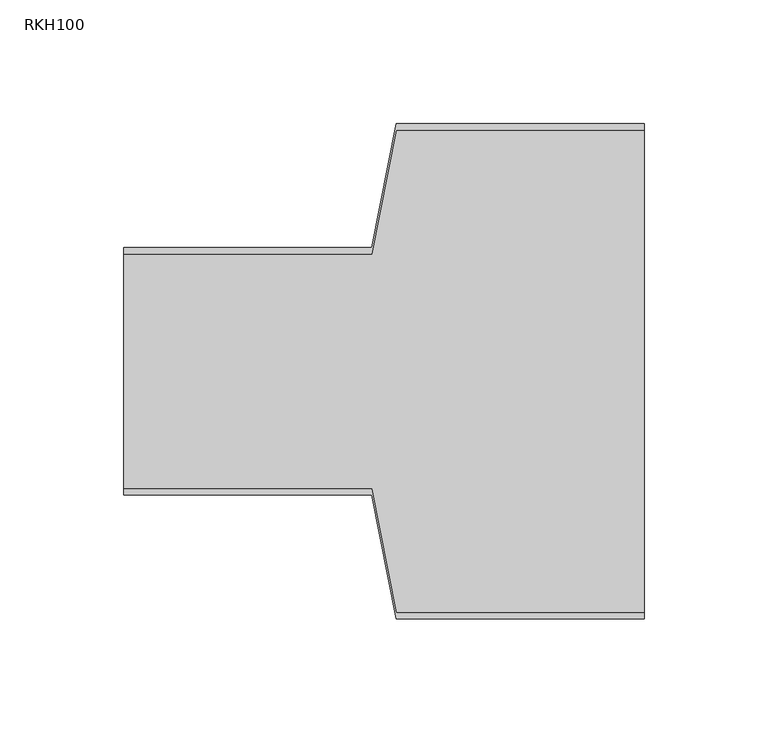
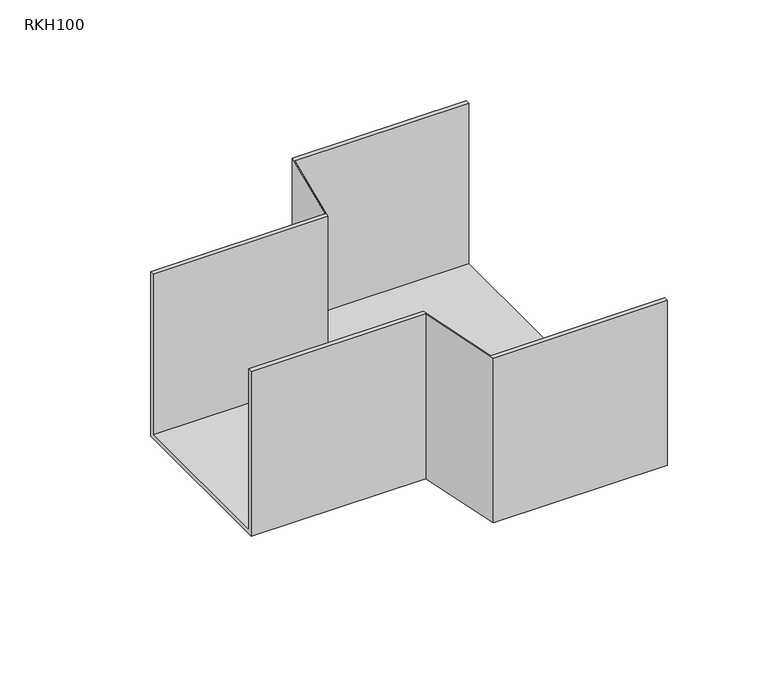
"""IFC4 building model written with IfcOpenShell, lengths in millimetres: cable carrier fitting geometry, BAKS_Reduction-angular_RK : RKH100."""

from ifc_helpers import new_model, si_unit, origin, place, context, project, spatial, faceted_brep, source, transform, mapped, element, save


def rkh100_78735ad3(model_context):
    return source(origin(), model_context, "Body", "Brep", [
        faceted_brep([(0.0, -50.0, -50.0), (0.0, -50.0, 50.0), (0.0, -47.46, 50.0), (0.0, -47.46, -47.46), (0.0, 47.46, -47.46), (0.0, 47.46, 50.0), (0.0, 50.0, 50.0), (0.0, 50.0, -50.0), (210.0, -100.0, -50.0), (210.0, 100.0, -50.0), (210.0, 100.0, 50.0), (210.0, 97.46, 50.0), (210.0, 97.46, -47.46), (210.0, -97.46, -47.46), (210.0, -97.46, 50.0), (210.0, -100.0, 50.0), (100.0, -50.0, -50.0), (100.0, -50.0, 50.0), (110.0, -100.0, 50.0), (110.0, -97.46, 50.0), (100.0, -47.46, 50.0), (100.0, -47.46, -47.46), (110.0, -97.46, -47.46), (110.0, 97.46, -47.46), (100.0, 47.46, -47.46), (100.0, 47.46, 50.0), (110.0, 97.46, 50.0), (110.0, 100.0, 50.0), (100.0, 50.0, 50.0), (100.0, 50.0, -50.0), (110.0, 100.0, -50.0), (110.0, -100.0, -50.0)], [[[0, 1, 2, 3, 4, 5, 6, 7]], [[8, 9, 10, 11, 12, 13, 14, 15]], [[1, 0, 16, 17]], [[2, 1, 17, 18, 15, 14, 19, 20]], [[3, 2, 20, 21]], [[4, 3, 21, 22, 13, 12, 23, 24]], [[5, 4, 24, 25]], [[6, 5, 25, 26, 11, 10, 27, 28]], [[7, 6, 28, 29]], [[0, 7, 29, 30, 9, 8, 31, 16]], [[8, 15, 18, 31]], [[14, 13, 22, 19]], [[12, 11, 26, 23]], [[10, 9, 30, 27]], [[30, 29, 28, 27]], [[26, 25, 24, 23]], [[22, 21, 20, 19]], [[16, 31, 18, 17]]]),
    ])


if __name__ == "__main__":
    model = new_model("IFC4")
    model_context = context("Model", 3, world=origin())
    ifc_project = project(units=[si_unit("LENGTHUNIT", "METRE", prefix="MILLI")], contexts=[model_context])
    site = spatial("IfcSite", under=ifc_project)
    building = spatial("IfcBuilding", under=site)
    placement = place(None, origin())
    rkh100_shape = rkh100_78735ad3(model_context)
    element("IfcCableCarrierFitting", 1, ObjectType="BAKS_Reduction-angular_RK : RKH100", at=placement, inside=building, context=model_context, shape_type="MappedRepresentation", body=[
        mapped(rkh100_shape, transform((0.0, 0.0, 0.0), x_axis=(1.0, 0.0, 0.0), y_axis=(0.0, 1.0, 0.0), z_axis=(0.0, 0.0, 1.0))),
    ])
    save(model, "model.ifc")
